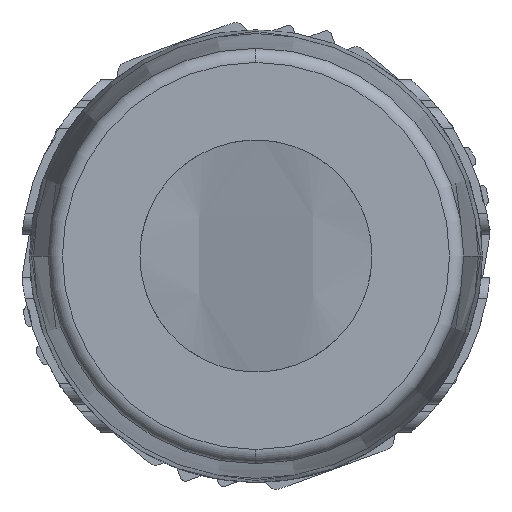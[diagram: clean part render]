
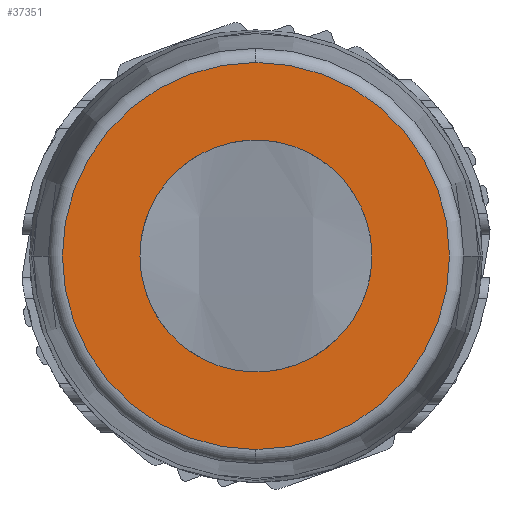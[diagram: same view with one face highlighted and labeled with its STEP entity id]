
A CAD part, front view. The second image highlights one B-rep face of the part: STEP entity #37351.
In plain terms, the highlighted planar face has unit normal (0, -1, 0).
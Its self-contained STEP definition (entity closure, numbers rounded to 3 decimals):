
#16205=CARTESIAN_POINT('',(0.,-51.85,0.));
#16206=DIRECTION('',(0.,-1.,0.));
#16207=DIRECTION('',(0.,0.,-1.));
#16208=AXIS2_PLACEMENT_3D('',#16205,#16206,#16207);
#16213=CARTESIAN_POINT('',(0.,-51.85,0.));
#16214=DIRECTION('',(0.,-1.,0.));
#16215=DIRECTION('',(0.,0.,1.));
#16216=AXIS2_PLACEMENT_3D('',#16213,#16214,#16215);
#16221=CARTESIAN_POINT('',(0.,-51.85,0.));
#16222=DIRECTION('',(0.,-1.,0.));
#16223=DIRECTION('',(1.,0.,0.));
#16224=AXIS2_PLACEMENT_3D('',#16221,#16222,#16223);
#16254=CARTESIAN_POINT('',(0.,-51.85,0.));
#16255=DIRECTION('',(0.,-1.,0.));
#16256=DIRECTION('',(-1.,0.,0.));
#16257=AXIS2_PLACEMENT_3D('',#16254,#16255,#16256);
#20895=CARTESIAN_POINT('',(0.,-51.85,-6.844));
#20897=VERTEX_POINT('',#20895);
#21009=CARTESIAN_POINT('',(0.,-51.85,6.844));
#21010=VERTEX_POINT('',#21009);
#21099=CARTESIAN_POINT('',(4.1,-51.85,0.));
#21100=CARTESIAN_POINT('',(-4.1,-51.85,0.));
#21101=VERTEX_POINT('',#21099);
#21102=VERTEX_POINT('',#21100);
#37336=CARTESIAN_POINT('',(0.,-51.85,0.));
#37337=DIRECTION('',(0.,-1.,0.));
#37338=DIRECTION('',(0.,0.,-1.));
#37339=AXIS2_PLACEMENT_3D('',#37336,#37337,#37338);
#37340=PLANE('',#37339);
#37341=ORIENTED_EDGE('',*,*,#37280,.F.);
#37342=ORIENTED_EDGE('',*,*,#37321,.F.);
#37343=EDGE_LOOP('',(#37341,#37342));
#37344=FACE_OUTER_BOUND('',#37343,.F.);
#37346=ORIENTED_EDGE('',*,*,#37345,.T.);
#37348=ORIENTED_EDGE('',*,*,#37347,.T.);
#37349=EDGE_LOOP('',(#37346,#37348));
#37350=FACE_BOUND('',#37349,.F.);
#37351=ADVANCED_FACE('',(#37344,#37350),#37340,.T.);
#16209=CIRCLE('',#16208,6.844);
#16217=CIRCLE('',#16216,6.844);
#16225=CIRCLE('',#16224,4.1);
#16258=CIRCLE('',#16257,4.1);
#37280=EDGE_CURVE('',#20897,#21010,#16209,.T.);
#37321=EDGE_CURVE('',#21010,#20897,#16217,.T.);
#37345=EDGE_CURVE('',#21101,#21102,#16225,.T.);
#37347=EDGE_CURVE('',#21102,#21101,#16258,.T.);
